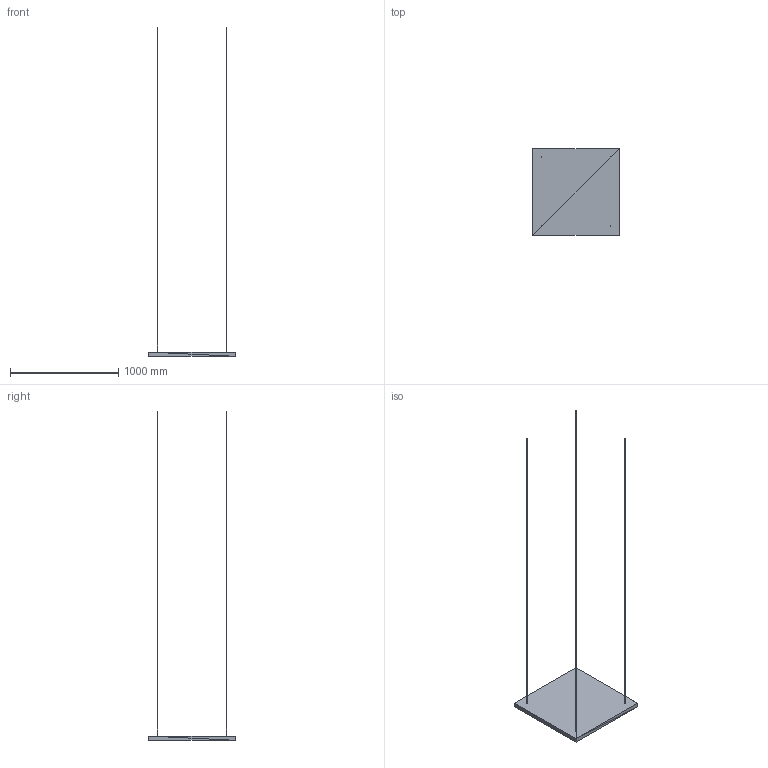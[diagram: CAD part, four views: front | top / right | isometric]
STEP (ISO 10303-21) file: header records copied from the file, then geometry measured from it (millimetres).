
FILE_DESCRIPTION(('ISINAC STEP AP214'),'2;1');
FILE_NAME('ISINAC_C.800_40mm_COLGADO','2026-05-03T10:49:19',('ISINAC'),('www.isinac.com'),'ISINAC BIM Generator 1.0','','');
FILE_SCHEMA(('AUTOMOTIVE_DESIGN'));
Length unit declared in the file: millimetre
Products named in the file (1): ISINAC_C.800_40mm_COLGADO
Bounding box: 800 x 800 x 3040 mm (x, y, z)
Surface area: 1516046 mm2 (no closed solid volume)
Topology: 0 solids, 92 shells, 92 faces, 276 edges, 276 vertices
Faces by surface type: plane 92
Entity records: 1025 total; most frequent: CARTESIAN_POINT 368, DIRECTION 184, POLY_LOOP 92, FACE_OUTER_BOUND 92, AXIS2_PLACEMENT_3D 92, PLANE 92, FACE_SURFACE 92, CLOSED_SHELL 1
